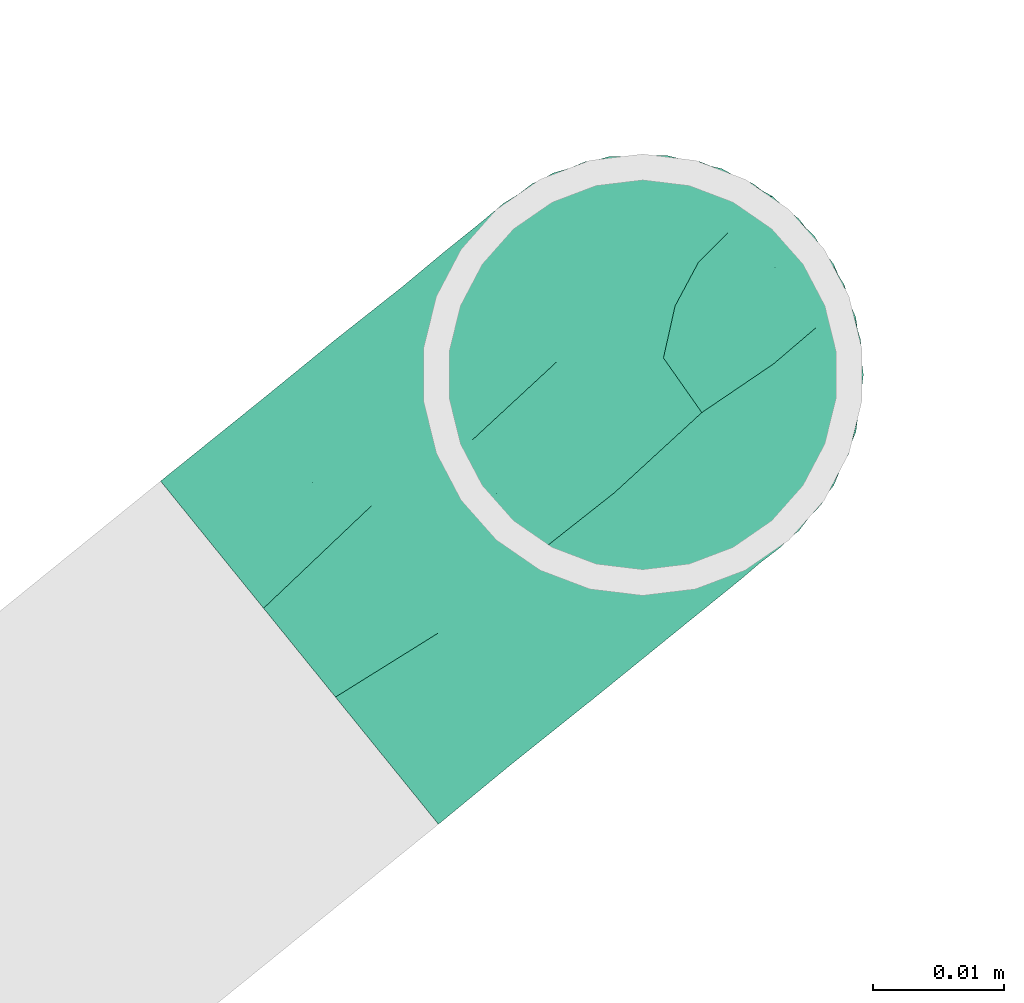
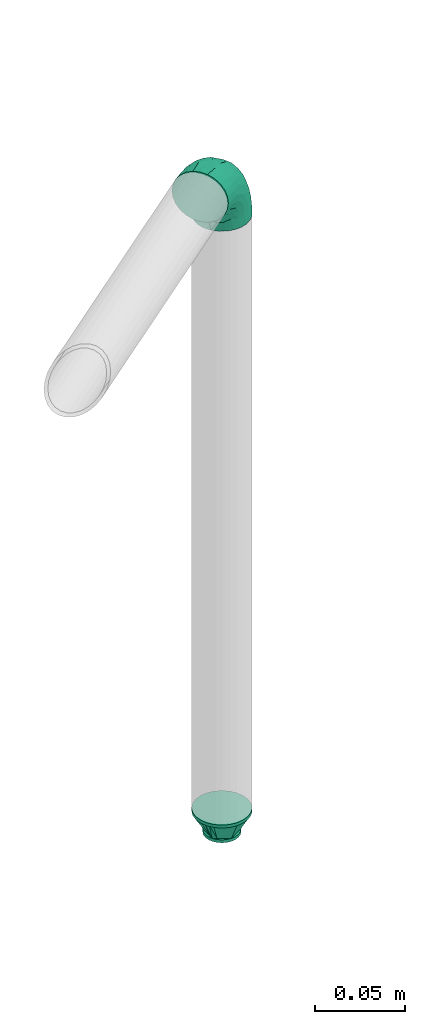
# One storey, part 87 of 94: 2 flow fittings.
"""IFC2X3 building model written with IfcOpenShell, lengths in millimetres."""

from ifc_helpers import new_model, entity, si_unit, converted_unit, derived_unit, direction, frame, origin_with_axes, place, context, subcontext, project, spatial, open_shell, surface_model, source, transform, mapped, type_object, element, save


model = new_model("IFC2X3")

# Units and contexts
model_context = context("Model", 3, precision=0.01, world=frame((0.0, 4.29681676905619e-09, 0.0)), true_north=direction((4.01073788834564e-13, 1.0)))
plan_context = context("Plan", 3, precision=0.01, world=frame((0.0, 4.29681676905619e-09, 0.0)), true_north=direction((4.01073788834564e-13, 1.0)))
body_context = subcontext(model_context, "Body", "Model", "MODEL_VIEW")
ifc_project = project(units=[converted_unit("PLANEANGLEUNIT", "DEGREE", entity("IfcPositiveLengthMeasure", 0.0174532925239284), si_unit("PLANEANGLEUNIT", "RADIAN"), dimensions=[0, 0, 0, 0, 0, 0, 0]), si_unit("AREAUNIT", "SQUARE_METRE"), si_unit("LENGTHUNIT", "METRE", prefix="MILLI"), si_unit("MASSUNIT", "GRAM", prefix="KILO"), si_unit("POWERUNIT", "WATT"), si_unit("PRESSUREUNIT", "PASCAL", prefix="KILO"), si_unit("FORCEUNIT", "NEWTON", prefix="KILO"), si_unit("ELECTRICVOLTAGEUNIT", "VOLT"), si_unit("ELECTRICCURRENTUNIT", "AMPERE"), si_unit("THERMODYNAMICTEMPERATUREUNIT", "DEGREE_CELSIUS"), si_unit("TIMEUNIT", "SECOND"), si_unit("VOLUMEUNIT", "CUBIC_METRE"), derived_unit("LINEARVELOCITYUNIT", [(si_unit("LENGTHUNIT", "METRE"), 1), (si_unit("TIMEUNIT", "SECOND"), -1)]), derived_unit("VOLUMETRICFLOWRATEUNIT", [(si_unit("VOLUMEUNIT", "CUBIC_METRE"), 1), (si_unit("TIMEUNIT", "SECOND"), -1)]), derived_unit("THERMALTRANSMITTANCEUNIT", [(si_unit("POWERUNIT", "WATT"), 1), (si_unit("THERMODYNAMICTEMPERATUREUNIT", "KELVIN"), -1), (si_unit("AREAUNIT", "SQUARE_METRE"), -1)]), derived_unit("SOUNDPRESSUREUNIT", [(si_unit("PRESSUREUNIT", "PASCAL"), 1)])], contexts=[model_context, plan_context])

# Site, building, storey
site_placement = place(None, frame((0.0, -4.29681676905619e-09, 0.0), z_axis=(0.0, 0.0, 1.0), x_axis=(1.0, 0.0, 0.0)))
site = spatial("IfcSite", under=ifc_project, at=site_placement, CompositionType="ELEMENT")
building_placement = place(site_placement, frame((0.0, 4.29681676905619e-09, 0.0), z_axis=(0.0, 0.0, 1.0), x_axis=(1.0, 0.0, 0.0)))
building = spatial("IfcBuilding", under=site, at=building_placement, Name="mc-building", CompositionType="ELEMENT")
storey_placement = place(building_placement, frame((0.0, 0.0, 210900.0), z_axis=(0.0, 0.0, 1.0), x_axis=(1.0, 0.0, 0.0)))
storey = spatial("IfcBuildingStorey", under=building, at=storey_placement, Name="Nivå F", CompositionType="ELEMENT", Elevation=210900.0)

# Flow fittings
pipe_fitting_type_1 = type_object("IfcPipeFittingType", Name="magi_pipe_fe_reducer_centric_short_NOR", PredefinedType="TRANSITION")
shared_shape_1 = source(origin_with_axes(), body_context, "Body", "SurfaceModel", [
    surface_model("IfcShellBasedSurfaceModel", [(14.4, 5.35, -9.26647), (14.4, 0.0, -10.7), (14.4, 2.76936, -10.33541), (14.4, 10.33541, -2.76936), (14.4, 7.56604, -7.56604), (14.4, -10.33541, -2.76936), (14.4, 9.26647, -5.35), (14.4, 0.0, 10.7), (14.4, -5.35, -9.26647), (14.4, -2.76936, -10.33541), (14.4, -7.56604, -7.56604), (14.4, -9.26647, -5.35), (14.4, 10.7, 0.0), (14.4, 10.33541, 2.76936), (14.4, 9.26647, 5.35), (14.4, 7.56604, 7.56604), (14.4, 2.76936, 10.33541), (14.4, 5.35, 9.26647), (14.4, -10.33541, 2.76936), (14.4, -7.56604, 7.56604), (14.4, -9.26647, 5.35), (14.4, -10.7, 0.0), (14.4, -2.76936, 10.33541), (14.4, -5.35, 9.26647), (12.4, 2.76936, 10.33541), (12.4, -10.33541, -2.76936), (12.4, 0.0, 10.7), (12.4, 5.35, 9.26647), (12.4, 7.56604, 7.56604), (12.4, 9.26647, 5.35), (12.4, 10.33541, 2.76936), (12.4, -10.33541, 2.76936), (12.4, -2.76936, 10.33541), (12.4, -7.56604, 7.56604), (12.4, -5.35, 9.26647), (12.4, -9.26647, 5.35), (12.4, -10.7, 0.0), (12.4, 10.33541, -2.76936), (12.4, 5.35, -9.26647), (12.4, 9.26647, -5.35), (12.4, 7.56604, -7.56604), (12.4, 2.76936, -10.33541), (12.4, -9.26647, -5.35), (12.4, -5.35, -9.26647), (12.4, -7.56604, -7.56604), (12.4, 0.0, -10.7), (12.4, -2.76936, -10.33541), (12.4, 10.7, 0.0), (-2.0, 11.9501, 11.9501), (-2.0, 0.0, 16.9), (-2.0, 4.37404, 16.32415), (-2.0, 8.45, 14.63583), (-2.0, 14.63583, 8.45), (-2.0, 16.32415, 4.37404), (-2.0, -16.32415, 4.37404), (-2.0, -8.45, 14.63583), (-2.0, -14.63583, 8.45), (-2.0, -11.9501, 11.9501), (-2.0, -4.37404, 16.32415), (-2.0, -16.32415, -4.37404), (-2.0, -16.9, 0.0), (-2.0, -8.45, -14.63583), (-2.0, 16.32415, -4.37404), (-2.0, 11.9501, -11.9501), (-2.0, 14.63583, -8.45), (-2.0, 8.45, -14.63583), (-2.0, 4.37404, -16.32415), (-2.0, 0.0, -16.9), (-2.0, -11.9501, -11.9501), (-2.0, -14.63583, -8.45), (-2.0, -4.37404, -16.32415), (-2.0, 16.9, 0.0), (0.0, 4.37404, -16.32415), (0.0, 8.45, -14.63583), (0.0, 11.9501, -11.9501), (0.0, 0.0, -16.9), (0.0, 16.32415, -4.37404), (0.0, 16.32415, 4.37404), (0.0, 14.63583, -8.45), (0.0, -8.45, -14.63583), (0.0, -4.37404, -16.32415), (0.0, -11.9501, -11.9501), (0.0, -16.32415, -4.37404), (0.0, -14.63583, -8.45), (0.0, -16.32415, 4.37404), (0.0, 16.9, 0.0), (0.0, 14.63583, 8.45), (0.0, 11.9501, 11.9501), (0.0, 4.37404, 16.32415), (0.0, 8.45, 14.63583), (0.0, 0.0, 16.9), (0.0, -14.63583, 8.45), (0.0, -16.9, 0.0), (0.0, -8.45, 14.63583), (0.0, -11.9501, 11.9501), (0.0, -4.37404, 16.32415), (12.4, 9.3625, -2.31662), (0.0, 14.42505, -5.97505), (0.0, 15.66253, -2.98753), (12.4, -6.6875, -6.94985), (0.0, -13.18758, -8.96258), (0.0, 2.98753, -15.66253), (12.4, 0.0, -9.26647), (12.4, 6.6875, -6.94985), (0.0, 8.96258, -13.18758), (12.4, -9.3625, -2.31662), (0.0, -15.66253, -2.98753), (0.0, -14.42505, -5.97505), (0.0, 5.97505, -14.42505), (0.0, -2.98753, -15.66253), (0.0, -8.96258, -13.18758), (0.0, 13.18758, -8.96258), (12.4, 8.025, -4.63324), (12.4, -2.675, -9.26647), (12.4, 2.675, -9.26647), (0.0, -5.97505, -14.42505), (12.4, -8.025, -4.63324), (12.4, -9.3625, 2.31662), (0.0, -14.42505, 5.97505), (0.0, -15.66253, 2.98753), (12.4, 6.6875, 6.94985), (0.0, 13.18758, 8.96258), (0.0, -2.98753, 15.66253), (12.4, 0.0, 9.26647), (12.4, -6.6875, 6.94985), (0.0, -8.96258, 13.18758), (12.4, 9.3625, 2.31662), (0.0, 15.66253, 2.98753), (0.0, 14.42505, 5.97505), (0.0, -5.97505, 14.42505), (0.0, 2.98753, 15.66253), (0.0, 8.96258, 13.18758), (0.0, -13.18758, 8.96258), (12.4, -8.025, 4.63324), (12.4, 2.675, 9.26647), (12.4, -2.675, 9.26647), (0.0, 5.97505, 14.42505), (12.4, 8.025, 4.63324)], [open_shell([[[0, 1, 2]], [[3, 0, 4]], [[5, 0, 3]], [[3, 4, 6]], [[7, 5, 3]], [[1, 8, 9]], [[1, 0, 8]], [[10, 5, 11]], [[5, 10, 8]], [[0, 5, 8]], [[3, 12, 13]], [[13, 14, 15]], [[13, 15, 16]], [[7, 3, 16]], [[16, 15, 17]], [[7, 18, 5]], [[18, 19, 20]], [[21, 5, 18]], [[19, 22, 23]], [[22, 19, 18]], [[7, 22, 18]], [[13, 16, 3]], [[24, 25, 26]], [[27, 25, 24]], [[28, 29, 30]], [[28, 25, 27]], [[31, 26, 25]], [[32, 33, 34]], [[33, 32, 31]], [[33, 31, 35]], [[32, 26, 31]], [[31, 25, 36]], [[30, 37, 28]], [[25, 28, 37]], [[38, 37, 39]], [[37, 38, 25]], [[38, 39, 40]], [[41, 25, 38]], [[42, 43, 44]], [[43, 42, 25]], [[43, 45, 46]], [[43, 25, 41]], [[41, 45, 43]], [[37, 30, 47]], [[25, 5, 36]], [[42, 11, 25]], [[8, 44, 43]], [[42, 44, 10]], [[9, 43, 46]], [[25, 11, 5]], [[5, 21, 36]], [[9, 8, 43]], [[10, 44, 8]], [[10, 11, 42]], [[1, 9, 46]], [[46, 45, 1]], [[41, 2, 45]], [[38, 0, 41]], [[6, 40, 39]], [[38, 40, 4]], [[3, 39, 37]], [[38, 4, 0]], [[0, 2, 41]], [[12, 3, 37]], [[6, 39, 3]], [[6, 4, 40]], [[47, 12, 37]], [[45, 2, 1]], [[30, 13, 47]], [[29, 14, 30]], [[17, 28, 27]], [[29, 28, 15]], [[16, 27, 24]], [[30, 14, 13]], [[13, 12, 47]], [[16, 17, 27]], [[15, 28, 17]], [[15, 14, 29]], [[7, 16, 24]], [[24, 26, 7]], [[32, 22, 26]], [[34, 23, 32]], [[20, 33, 35]], [[34, 33, 19]], [[18, 35, 31]], [[34, 19, 23]], [[23, 22, 32]], [[21, 18, 31]], [[20, 35, 18]], [[20, 19, 33]], [[36, 21, 31]], [[26, 22, 7]], [[48, 49, 50]], [[48, 50, 51]], [[48, 52, 53]], [[48, 53, 49]], [[49, 53, 54]], [[55, 56, 57]], [[55, 58, 49]], [[56, 55, 49]], [[49, 54, 56]], [[54, 59, 60]], [[54, 53, 61]], [[53, 62, 63]], [[63, 62, 64]], [[63, 65, 66]], [[61, 53, 63]], [[67, 63, 66]], [[59, 68, 69]], [[68, 59, 61]], [[61, 67, 70]], [[59, 54, 61]], [[63, 67, 61]], [[53, 71, 62]], [[72, 73, 74]], [[75, 72, 74]], [[74, 76, 77]], [[76, 74, 78]], [[74, 77, 79]], [[75, 79, 80]], [[75, 74, 79]], [[81, 82, 83]], [[82, 81, 79]], [[79, 84, 82]], [[77, 76, 85]], [[77, 86, 87]], [[77, 87, 88]], [[88, 84, 79]], [[88, 87, 89]], [[84, 88, 90]], [[90, 91, 84]], [[92, 82, 84]], [[91, 93, 94]], [[91, 90, 93]], [[93, 90, 95]], [[79, 77, 88]], [[59, 82, 60]], [[69, 83, 59]], [[79, 68, 61]], [[69, 68, 81]], [[80, 61, 70]], [[59, 83, 82]], [[82, 92, 60]], [[80, 79, 61]], [[81, 68, 79]], [[81, 83, 69]], [[75, 80, 70]], [[70, 67, 75]], [[66, 72, 67]], [[65, 73, 66]], [[78, 63, 64]], [[65, 63, 74]], [[76, 64, 62]], [[65, 74, 73]], [[73, 72, 66]], [[85, 76, 62]], [[78, 64, 76]], [[78, 74, 63]], [[71, 85, 62]], [[67, 72, 75]], [[53, 77, 71]], [[52, 86, 53]], [[89, 48, 51]], [[52, 48, 87]], [[88, 51, 50]], [[53, 86, 77]], [[77, 85, 71]], [[88, 89, 51]], [[87, 48, 89]], [[87, 86, 52]], [[90, 88, 50]], [[50, 49, 90]], [[58, 95, 49]], [[55, 93, 58]], [[91, 57, 56]], [[55, 57, 94]], [[84, 56, 54]], [[55, 94, 93]], [[93, 95, 58]], [[92, 84, 54]], [[91, 56, 84]], [[91, 94, 57]], [[60, 92, 54]], [[49, 95, 90]], [[27, 34, 47]], [[47, 34, 43]], [[43, 38, 47]], [[43, 34, 36]], [[90, 87, 94]], [[92, 94, 87]], [[87, 74, 92]], [[75, 92, 74]], [[81, 92, 75]], [[74, 87, 85]], [[96, 97, 98]], [[81, 99, 100]], [[101, 102, 75]], [[98, 85, 47]], [[74, 103, 104]], [[104, 103, 38]], [[105, 106, 107]], [[38, 108, 104]], [[102, 109, 75]], [[110, 99, 81]], [[47, 96, 98]], [[103, 111, 112]], [[109, 102, 113]], [[36, 92, 106]], [[102, 101, 114]], [[110, 115, 43]], [[96, 112, 97]], [[107, 116, 105]], [[36, 106, 105]], [[113, 115, 109]], [[43, 115, 113]], [[116, 107, 100]], [[108, 38, 114]], [[111, 103, 74]], [[111, 97, 112]], [[99, 110, 43]], [[116, 100, 99]], [[101, 108, 114]], [[117, 118, 119]], [[87, 120, 121]], [[122, 123, 90]], [[119, 92, 36]], [[94, 124, 125]], [[125, 124, 34]], [[126, 127, 128]], [[34, 129, 125]], [[123, 130, 90]], [[131, 120, 87]], [[36, 117, 119]], [[124, 132, 133]], [[130, 123, 134]], [[47, 85, 127]], [[123, 122, 135]], [[131, 136, 27]], [[117, 133, 118]], [[128, 137, 126]], [[47, 127, 126]], [[134, 136, 130]], [[27, 136, 134]], [[137, 128, 121]], [[129, 34, 135]], [[132, 124, 94]], [[132, 118, 133]], [[120, 131, 27]], [[137, 121, 120]], [[122, 129, 135]]])]),
])
flow_fitting_1_placement = place(storey_placement, frame((726721.57541, 444759.82541, 3059.35200000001), z_axis=(-1.0, 0.0, 0.0), x_axis=(0.0, 0.0, -1.0)))
element("IfcFlowFitting", 1, at=flow_fitting_1_placement, inside=storey, type_object=pipe_fitting_type_1, Name="magi_pipe_fe_reducer_centric_short_NOR", context=body_context, shape_type="MappedRepresentation", body=[
    mapped(shared_shape_1, transform((0.0, 0.0, 0.0), scale=1.0)),
])
pipe_fitting_type_2 = type_object("IfcPipeFittingType", Name="magi_pipe_fe_elbow_short_001", PredefinedType="BEND")
shared_shape_2 = source(origin_with_axes(), body_context, "Body", "SurfaceModel", [
    surface_model("IfcShellBasedSurfaceModel", [(-33.8, 8.45, -14.63583), (-33.8, 4.37404, -16.32415), (-33.8, 11.9501, -11.9501), (-33.8, -11.9501, -11.9501), (-33.8, -14.63583, -8.45), (-33.8, -8.45, -14.63583), (-33.8, 0.0, -16.9), (-33.8, -4.37404, -16.32415), (-33.8, -4.37404, 16.32415), (-33.8, 0.0, 16.9), (-33.8, -8.45, 14.63583), (-33.8, 16.32415, -4.37404), (-33.8, 14.63583, -8.45), (-33.8, -16.32415, -4.37404), (-33.8, -16.9, 0.0), (-33.8, -16.32415, 4.37404), (-33.8, 11.9501, 11.9501), (-33.8, 14.63583, 8.45), (-33.8, 16.32415, 4.37404), (-33.8, 4.37404, 16.32415), (-33.8, 8.45, 14.63583), (-33.8, -14.63583, 8.45), (-33.8, -11.9501, 11.9501), (-33.8, 16.9, 0.0), (-11.9501, 33.8, -11.9501), (0.0, 33.8, -16.9), (-4.37404, 33.8, -16.32415), (-8.45, 33.8, -14.63583), (-14.63583, 33.8, -8.45), (-16.32415, 33.8, -4.37404), (14.63583, 33.8, -8.45), (8.45, 33.8, 14.63583), (16.32415, 33.8, -4.37404), (8.45, 33.8, -14.63583), (11.9501, 33.8, -11.9501), (4.37404, 33.8, -16.32415), (16.32415, 33.8, 4.37404), (16.9, 33.8, 0.0), (-11.9501, 33.8, 11.9501), (-16.32415, 33.8, 4.37404), (-14.63583, 33.8, 8.45), (-8.45, 33.8, 14.63583), (-4.37404, 33.8, 16.32415), (11.9501, 33.8, 11.9501), (14.63583, 33.8, 8.45), (0.0, 33.8, 16.9), (4.37404, 33.8, 16.32415), (-16.9, 33.8, 0.0), (-24.79389, -13.12945, 9.48721), (-22.19287, -9.75018, 12.59315), (-24.09897, -14.97035, 0.0), (-14.93934, -10.76256, 8.5297), (-22.46095, -14.75051, 5.27077), (14.75051, 22.46094, 5.27077), (11.9251, 13.23888, 4.33236), (13.04069, 14.39795, 0.0), (7.71387, 13.68847, 11.55891), (9.75018, 22.19287, 12.59315), (4.10169, 13.0571, 14.04018), (-24.84007, -6.39063, 15.2048), (-25.81779, -2.23879, 16.61097), (-23.66549, 2.59054, 16.87119), (-26.50418, 14.06512, 11.08152), (-24.21253, 17.66365, 7.72657), (-29.58514, 15.86957, 7.00283), (-6.17382, -7.5455, 0.0), (-13.23888, -11.9251, 4.33236), (-14.39795, -13.04069, 0.0), (-17.81434, 18.87373, 11.97104), (-6.30846, 29.15138, 15.82987), (-2.31622, 25.28002, 16.85849), (-29.23923, 10.23435, 13.77053), (-1.45439, -2.85688, 7.61475), (-0.28326, 0.34872, 10.09509), (-5.74484, -4.04709, 10.4122), (-4.41137, 11.31918, 16.59407), (-8.39727, 3.10034, 15.7812), (-1.72649, 9.1306, 15.53089), (-17.39909, 24.75344, 7.64977), (-26.19233, 20.0512, 0.0), (-28.14518, 17.29657, 4.25857), (-26.05147, 6.6281, 15.96447), (-5.87354, 16.61944, 16.86968), (-12.51807, 12.51807, 16.48937), (-10.06312, 7.38516, 16.81295), (-3.01882, 3.01882, 13.81718), (-13.0571, -4.10169, 14.04018), (-16.82553, -0.15166, 16.38038), (10.76256, 14.93934, 8.5297), (13.12945, 24.79389, 9.48721), (6.39063, 24.84007, 15.2048), (2.23879, 25.81779, 16.61097), (-13.68847, -7.71387, 11.55891), (14.97035, 24.09897, 0.0), (-7.30894, 22.89991, 16.09489), (-10.67958, 26.17414, 14.008), (-12.78295, 18.26924, 15.06066), (-13.88562, 22.45231, 12.93244), (-18.04944, 15.16501, 14.04434), (-23.11658, 20.08178, 4.02986), (-21.84989, 21.84989, 0.0), (-18.55817, 25.48277, 3.93065), (-13.95142, 26.94732, 11.03289), (-18.57098, 7.23906, 16.59756), (-16.58335, 4.14122, 16.89279), (-17.96666, 11.46709, 15.63151), (-9.84453, 17.54304, 16.18938), (0.15166, 16.82553, 16.38038), (-23.27207, 11.47201, 14.23154), (3.84842, 5.86994, 10.70473), (-8.0212, -7.54413, 7.93275), (1.00345, -2.19508, 4.57414), (5.13203, 3.01004, 5.90201), (5.24161, 1.7543, 2.53265), (8.70457, 7.04947, 3.99182), (-20.0512, 26.19233, 0.0), (8.4852, 8.76699, 7.09296), (-4.55488, -6.72064, 4.90681), (2.05031, -2.05031, 0.0), (7.5455, 6.17382, 0.0), (-26.75399, 2.1369, -16.845), (-14.61995, 24.73803, -11.27736), (-28.45274, -13.45335, -9.81895), (-26.00469, 6.63555, -15.96645), (-23.06726, 20.04573, -4.26202), (-13.80647, -4.26506, -14.17873), (-14.67501, -0.21081, -16.07388), (-6.7902, -0.2828, -13.8478), (-24.53586, 11.08096, -14.13417), (-26.72048, 14.00837, -11.05776), (10.0967, 24.44989, -12.75976), (5.83237, 21.40218, -15.03047), (6.66249, 28.54238, -15.38093), (-20.38182, 15.48705, -12.74596), (12.53268, 21.23441, -9.15363), (12.54494, 15.67504, -5.54878), (9.7522, 12.89279, -8.66343), (-15.65186, 19.64213, -13.01327), (-12.03528, 20.66498, -14.67665), (-15.61907, 15.61906, -14.83879), (-25.56551, -15.26206, 0.0), (-24.65452, -15.12934, -5.50955), (13.45335, 28.45274, -9.81895), (15.12934, 24.65452, -5.50955), (-7.35442, -8.31014, -5.65563), (-15.67504, -12.54494, -5.54878), (-24.44989, -10.0967, -12.75976), (0.16522, 0.41303, -9.71728), (-5.70658, -5.33066, -8.89288), (-5.13869, -2.37198, -11.53565), (-21.23441, -12.53268, -9.15363), (0.71146, 7.93863, -14.09382), (0.21081, 14.67501, -16.07388), (3.49291, 14.42772, -14.76381), (-24.89911, -2.13088, -16.591), (-28.54238, -6.66249, -15.38093), (-18.44386, -7.71663, -13.26957), (2.13088, 24.89911, -16.591), (-28.64342, 17.44413, -2.89318), (1.70017, -1.28722, -5.09504), (-16.57067, 26.81947, -7.36596), (-17.69055, 27.4263, -3.76405), (-12.89279, -9.7522, -8.66343), (-5.96611, 5.96611, -15.95814), (-20.53709, 20.09345, -8.28985), (-2.1369, 26.75399, -16.845), (-6.89872, 24.58781, -16.02578), (-10.60739, 26.53157, -13.98044), (-21.40218, -5.83237, -15.03047), (2.93192, 5.89627, -11.55917), (6.89393, 12.61842, -11.82233), (5.58056, 5.95325, -8.79455), (-3.99512, 18.61798, -16.89635), (8.31014, 7.35442, -5.65563), (-9.1383, 9.86148, -16.89041), (-9.99983, 16.02119, -16.39699), (-16.68576, 9.78031, -16.34199), (-27.01915, 16.61158, -7.12979), (15.26206, 25.56551, 0.0), (-18.61798, 3.99512, -16.89635), (-19.37495, 27.82495, 0.0), (-12.61842, -6.89393, -11.82233), (-18.84705, 19.14018, -10.96545)], [open_shell([[[0, 1, 2]], [[3, 4, 5]], [[6, 7, 5]], [[8, 9, 10]], [[1, 6, 2]], [[11, 12, 2]], [[4, 2, 6]], [[2, 13, 10]], [[5, 4, 6]], [[2, 4, 13]], [[14, 15, 13]], [[11, 2, 16]], [[11, 17, 18]], [[11, 16, 17]], [[19, 20, 16]], [[16, 2, 10]], [[19, 16, 10]], [[21, 22, 15]], [[22, 13, 15]], [[22, 10, 13]], [[10, 9, 19]], [[11, 18, 23]], [[24, 25, 26]], [[24, 26, 27]], [[24, 28, 29]], [[25, 24, 30]], [[31, 32, 24]], [[33, 30, 34]], [[33, 35, 25]], [[25, 30, 33]], [[32, 30, 24]], [[32, 36, 37]], [[38, 24, 29]], [[39, 40, 29]], [[40, 38, 29]], [[38, 41, 42]], [[38, 31, 24]], [[31, 38, 42]], [[36, 43, 44]], [[36, 32, 43]], [[31, 45, 46]], [[32, 31, 43]], [[42, 45, 31]], [[39, 29, 47]], [[22, 48, 49]], [[15, 14, 50]], [[51, 48, 52]], [[53, 54, 55]], [[48, 22, 21]], [[15, 52, 21]], [[56, 57, 58]], [[49, 10, 22]], [[49, 59, 10]], [[9, 60, 61]], [[62, 63, 64]], [[65, 66, 67]], [[57, 43, 31]], [[62, 68, 63]], [[42, 69, 70]], [[20, 71, 16]], [[8, 60, 9]], [[72, 73, 74]], [[75, 76, 77]], [[16, 62, 17]], [[40, 39, 78]], [[79, 23, 80]], [[64, 18, 17]], [[9, 61, 19]], [[19, 81, 20]], [[82, 83, 84]], [[74, 85, 86]], [[59, 86, 87]], [[88, 89, 57]], [[90, 31, 46]], [[44, 53, 36]], [[46, 45, 91]], [[54, 53, 88]], [[44, 89, 53]], [[92, 86, 49]], [[89, 44, 43]], [[10, 59, 8]], [[53, 55, 93]], [[93, 36, 53]], [[66, 52, 67]], [[94, 82, 70]], [[95, 96, 94]], [[97, 98, 96]], [[79, 99, 100]], [[41, 38, 95]], [[101, 100, 99]], [[68, 78, 63]], [[42, 41, 69]], [[23, 18, 80]], [[95, 94, 69]], [[78, 101, 99]], [[38, 102, 95]], [[70, 45, 42]], [[97, 95, 102]], [[15, 50, 52]], [[90, 57, 31]], [[57, 90, 58]], [[81, 19, 61]], [[103, 104, 84]], [[105, 81, 103]], [[38, 40, 102]], [[106, 96, 83]], [[94, 106, 82]], [[91, 70, 107]], [[71, 62, 16]], [[62, 108, 98]], [[86, 59, 49]], [[67, 52, 50]], [[60, 59, 87]], [[92, 49, 51]], [[86, 85, 76]], [[91, 90, 46]], [[37, 36, 93]], [[107, 77, 58]], [[107, 58, 90]], [[58, 85, 109]], [[110, 74, 92]], [[72, 74, 110]], [[66, 51, 52]], [[72, 111, 112]], [[113, 114, 112]], [[56, 88, 57]], [[52, 48, 21]], [[49, 48, 51]], [[57, 89, 43]], [[53, 89, 88]], [[103, 81, 61]], [[71, 81, 108]], [[18, 64, 80]], [[63, 78, 99]], [[47, 115, 101]], [[101, 115, 100]], [[40, 78, 102]], [[68, 102, 78]], [[97, 96, 95]], [[105, 98, 108]], [[103, 84, 83]], [[107, 70, 82]], [[76, 84, 87]], [[82, 84, 75]], [[70, 91, 45]], [[90, 91, 107]], [[59, 60, 8]], [[61, 60, 87]], [[73, 85, 74]], [[109, 112, 116]], [[103, 61, 104]], [[105, 103, 83]], [[96, 105, 83]], [[81, 105, 108]], [[96, 98, 105]], [[62, 98, 68]], [[61, 87, 104]], [[87, 84, 104]], [[86, 76, 87]], [[77, 76, 85]], [[58, 77, 85]], [[75, 77, 107]], [[82, 75, 107]], [[76, 75, 84]], [[81, 71, 20]], [[62, 71, 108]], [[95, 69, 41]], [[70, 69, 94]], [[62, 64, 17]], [[80, 63, 99]], [[63, 80, 64]], [[80, 99, 79]], [[66, 65, 117]], [[110, 66, 117]], [[112, 114, 116]], [[118, 117, 65]], [[110, 92, 51]], [[112, 111, 113]], [[119, 55, 54]], [[74, 86, 92]], [[58, 109, 56]], [[116, 56, 109]], [[66, 110, 51]], [[72, 110, 117]], [[111, 72, 117]], [[73, 112, 109]], [[117, 118, 111]], [[113, 111, 118]], [[118, 119, 113]], [[114, 119, 54]], [[119, 114, 113]], [[116, 54, 88]], [[54, 116, 114]], [[116, 88, 56]], [[112, 73, 72]], [[85, 73, 109]], [[78, 39, 101]], [[47, 101, 39]], [[102, 68, 97]], [[97, 68, 98]], [[82, 106, 83]], [[94, 96, 106]], [[1, 120, 6]], [[28, 24, 121]], [[3, 122, 4]], [[0, 123, 1]], [[100, 124, 79]], [[125, 126, 127]], [[128, 2, 129]], [[130, 131, 132]], [[128, 129, 133]], [[134, 135, 136]], [[137, 138, 139]], [[128, 0, 2]], [[67, 140, 141]], [[134, 142, 143]], [[141, 13, 4]], [[144, 65, 145]], [[146, 3, 5]], [[147, 148, 149]], [[145, 141, 150]], [[151, 152, 153]], [[154, 7, 6]], [[5, 155, 146]], [[150, 146, 156]], [[155, 5, 7]], [[143, 135, 134]], [[35, 157, 25]], [[23, 79, 158]], [[148, 159, 144]], [[160, 161, 29]], [[145, 162, 144]], [[163, 152, 151]], [[29, 28, 160]], [[121, 164, 160]], [[33, 34, 130]], [[25, 165, 26]], [[26, 165, 166]], [[142, 34, 30]], [[24, 27, 167]], [[124, 161, 164]], [[157, 35, 132]], [[155, 154, 168]], [[123, 0, 128]], [[169, 170, 171]], [[172, 157, 152]], [[26, 166, 27]], [[132, 35, 33]], [[142, 130, 34]], [[168, 154, 126]], [[136, 135, 173]], [[133, 137, 139]], [[2, 12, 129]], [[170, 131, 130]], [[30, 32, 143]], [[172, 174, 175]], [[176, 123, 128]], [[158, 177, 11]], [[135, 55, 119]], [[167, 27, 166]], [[175, 166, 172]], [[137, 167, 138]], [[122, 141, 4]], [[140, 14, 13]], [[32, 37, 178]], [[170, 130, 134]], [[152, 157, 131]], [[165, 157, 172]], [[153, 170, 151]], [[152, 163, 174]], [[168, 125, 156]], [[122, 146, 150]], [[120, 154, 6]], [[179, 174, 126]], [[179, 126, 154]], [[126, 163, 127]], [[162, 145, 150]], [[140, 13, 141]], [[32, 178, 143]], [[55, 143, 178]], [[177, 129, 12]], [[128, 133, 139]], [[176, 128, 139]], [[120, 123, 179]], [[121, 160, 28]], [[161, 100, 180]], [[166, 175, 138]], [[121, 24, 167]], [[161, 47, 29]], [[79, 124, 158]], [[124, 164, 177]], [[161, 124, 100]], [[136, 171, 170]], [[127, 163, 151]], [[147, 171, 159]], [[148, 144, 162]], [[127, 151, 169]], [[127, 181, 125]], [[129, 177, 164]], [[12, 11, 177]], [[159, 65, 144]], [[67, 141, 145]], [[143, 55, 135]], [[135, 119, 173]], [[123, 120, 1]], [[154, 120, 179]], [[157, 165, 25]], [[166, 165, 172]], [[172, 152, 174]], [[176, 139, 175]], [[126, 174, 163]], [[176, 174, 179]], [[174, 176, 175]], [[123, 176, 179]], [[150, 181, 162]], [[127, 149, 181]], [[181, 148, 162]], [[159, 148, 147]], [[171, 136, 173]], [[170, 134, 136]], [[159, 171, 173]], [[171, 147, 169]], [[169, 147, 149]], [[151, 170, 169]], [[164, 182, 129]], [[182, 121, 137]], [[181, 149, 148]], [[169, 149, 127]], [[182, 137, 133]], [[167, 137, 121]], [[166, 138, 167]], [[175, 139, 138]], [[129, 182, 133]], [[121, 182, 164]], [[161, 160, 164]], [[47, 161, 180]], [[177, 158, 124]], [[23, 158, 11]], [[130, 132, 33]], [[157, 132, 131]], [[143, 142, 30]], [[130, 142, 134]], [[154, 155, 7]], [[146, 155, 168]], [[146, 122, 3]], [[141, 122, 150]], [[152, 131, 153]], [[159, 119, 118]], [[67, 145, 65]], [[170, 153, 131]], [[119, 159, 173]], [[159, 118, 65]], [[156, 125, 181]], [[126, 125, 168]], [[150, 156, 181]], [[168, 156, 146]]])]),
])
flow_fitting_2_placement = place(storey_placement, frame((726721.57541, 444759.82541, 3500.0), z_axis=(-0.629320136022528, 0.777146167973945, 0.0), x_axis=(0.777146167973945, 0.629320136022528, 0.0)))
element("IfcFlowFitting", 2, at=flow_fitting_2_placement, inside=storey, type_object=pipe_fitting_type_2, Name="magi_pipe_fe_elbow_short_001", context=body_context, shape_type="MappedRepresentation", body=[
    mapped(shared_shape_2, transform((0.0, 0.0, 0.0), scale=1.0)),
])

save(model, "model.ifc")
